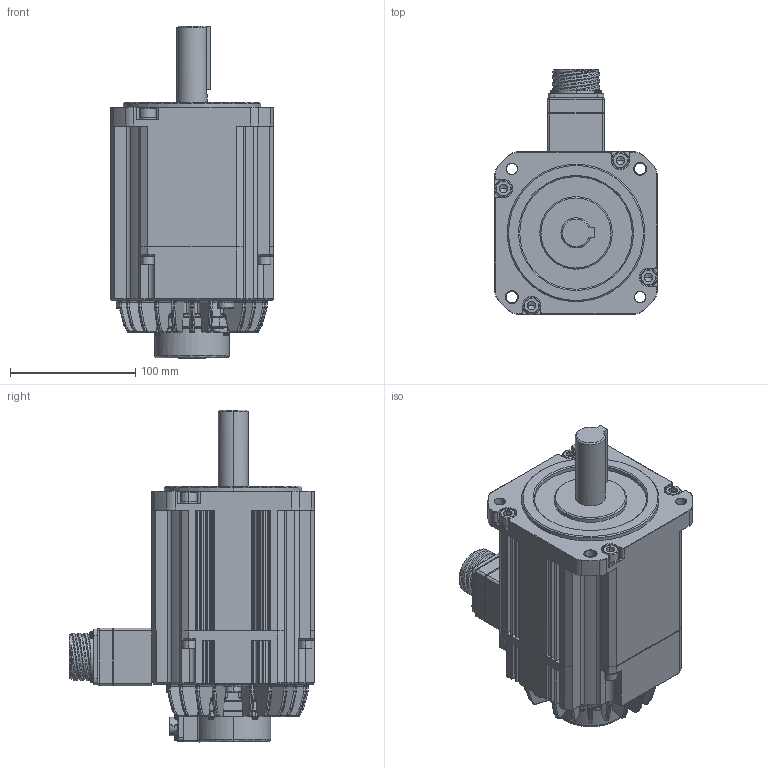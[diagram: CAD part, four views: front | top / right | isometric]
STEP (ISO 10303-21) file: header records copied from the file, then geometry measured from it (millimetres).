
FILE_DESCRIPTION (( 'STEP AP203' ), '1' );
FILE_NAME ('TSM3510N2371E733装配片 （和2372一致）.STEP', '2018-06-25T02:27:12', ( '' ), ( '' ), 'SwSTEP 2.0', 'SolidWorks 2017', '' );
FILE_SCHEMA (( 'CONFIG_CONTROL_DESIGN' ));
Products named in the file (3): TSM3510N2371E732（TSM3510N2372E733一致）装配片; 螺紋孔; TSM3510N2371E733装配片 （和2372一致）
Assembly tree (2 placements, depth 2):
  TSM3510N2371E733装配片 （和2372一致）
    TSM3510N2371E732（TSM3510N2372E733一致）装配片
    螺紋孔
Bounding box: 130.5 x 196.2 x 265.5 mm (x, y, z)
Surface area: 181306.3 mm2 (no closed solid volume)
Topology: 0 solids, 13 shells, 3108 faces, 7801 edges, 4711 vertices
Faces by surface type: bspline 1091, plane 1033, cylinder 764, cone 220
Entity records: 152592 total; most frequent: CARTESIAN_POINT 86585, ORIENTED_EDGE 15342, DIRECTION 11211, EDGE_CURVE 7696, VERTEX_POINT 4711, AXIS2_PLACEMENT_3D 3808, VECTOR 3595, LINE 3595
